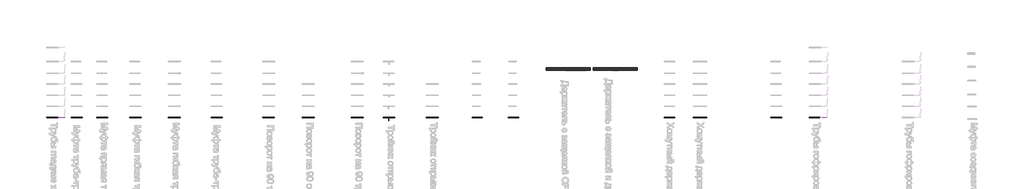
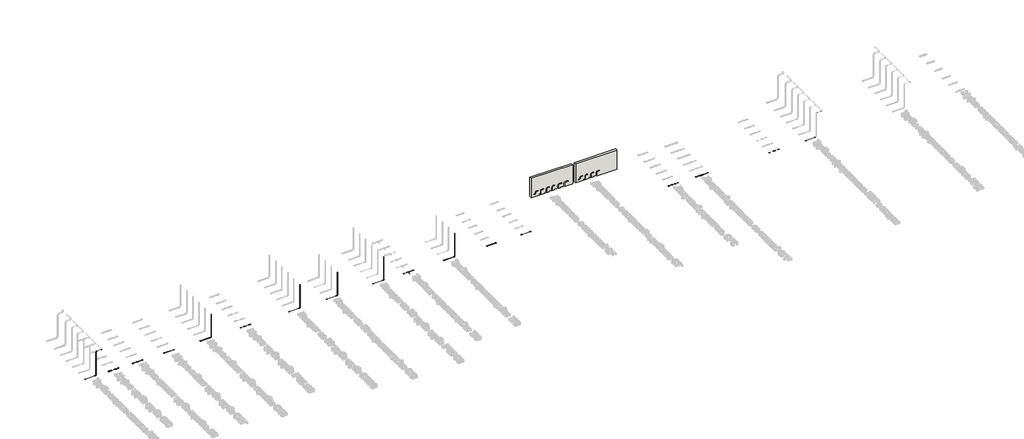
# One storey, part 1 of 33: 37 cable carrier segments, 22 cable carrier fittings, 2 walls.
"""IFC4 building model written with IfcOpenShell, lengths in millimetres."""

from ifc_helpers import new_model, si_unit, point, frame, frame_2d, origin, origin_with_axes, place, context, project, spatial, polyline, circle_curve, trimmed, segment, composite_curve, outline, extrude, transform, mapped, element, save
from components import cable_carrier_fitting_a50456ce, cable_carrier_fitting_7ef405d8, cable_carrier_fitting_6bc16285, cable_carrier_fitting_4a6c0bc6, cable_carrier_fitting_c9a27e83, cable_carrier_fitting_b1a6df09, cable_carrier_fitting_59e1ce25, cable_carrier_fitting_0a225d73, cable_carrier_fitting_85420fde, cable_carrier_fitting_3c8e73ad, cable_carrier_fitting_d08d1a64, cable_carrier_fitting_24b0fe75

model = new_model("IFC4")

# Units and contexts
model_context = context("Model", 3, world=origin())
ifc_project = project(units=[si_unit("LENGTHUNIT", "METRE", prefix="MILLI")], contexts=[model_context])

# Site, building, storey
site = spatial("IfcSite", under=ifc_project)
building = spatial("IfcBuilding", under=site)
storey = spatial("IfcBuildingStorey", under=building, Name="Уровень 1", Elevation=0.0)

# Cable carrier fittings
placement = place(None, origin())
cable_carrier_fitting_shape = cable_carrier_fitting_a50456ce(model_context)
element("IfcCableCarrierFitting", 1, ObjectType="Отвод Трубы гладкие жесткие ПВХ : Отвод Трубы гладкие жесткие ПВХ", at=placement, inside=storey, context=model_context, shape_type="MappedRepresentation", body=[
    mapped(cable_carrier_fitting_shape, transform((3794.4472755, -32.3744007, 45.929251), x_axis=(1.0, 0.0, 0.0), y_axis=(0.0, 0.0, 1.0), z_axis=(0.0, -1.0, 0.0))),
])
element("IfcCableCarrierFitting", 2, ObjectType="Отвод Трубы гладкие жесткие ПВХ : Отвод Трубы гладкие жесткие ПВХ", at=placement, inside=storey, context=model_context, shape_type="MappedRepresentation", body=[
    mapped(cable_carrier_fitting_shape, transform((3794.4472755, -32.3744007, 2545.929251), x_axis=(0.0, 0.0, 1.0), y_axis=(1.0, 0.0, 0.0), z_axis=(0.0, 1.0, 0.0))),
])
element("IfcCableCarrierFitting", 3, ObjectType="Отвод Трубы гладкие жесткие ПВХ : Отвод Трубы гладкие жесткие ПВХ", at=placement, inside=storey, context=model_context, shape_type="MappedRepresentation", body=[
    mapped(cable_carrier_fitting_shape, transform((4394.4472755, -32.3744007, 2545.929251), x_axis=(1.0, 0.0, 0.0), y_axis=(0.0, 1.0, 0.0), z_axis=(0.0, 0.0, 1.0))),
])
cable_carrier_fitting_2_shape = cable_carrier_fitting_7ef405d8(model_context)
element("IfcCableCarrierFitting", 4, ObjectType="Муфта труба-труба GIG IEK : CTA10D-GIG16-K41-100", at=placement, inside=storey, context=model_context, shape_type="MappedRepresentation", body=[
    mapped(cable_carrier_fitting_2_shape, transform((5239.8785953, -32.3744007, 45.929251), x_axis=(1.0, 0.0, 0.0), y_axis=(0.0, 1.0, 0.0), z_axis=(0.0, 0.0, 1.0))),
])
element("IfcCableCarrierFitting", 5, ObjectType="Муфта труба-труба GIG IEK : CTA10D-GIG16-K41-100", at=placement, inside=storey, context=model_context, shape_type="MappedRepresentation", body=[
    mapped(cable_carrier_fitting_2_shape, transform((5714.9307909, -32.3744007, 45.929251), x_axis=(1.0, 0.0, 0.0), y_axis=(0.0, 1.0, 0.0), z_axis=(0.0, 0.0, 1.0))),
])
cable_carrier_fitting_3_shape = cable_carrier_fitting_6bc16285(model_context)
element("IfcCableCarrierFitting", 6, ObjectType="Муфта гибкая труба-коробка CXS : Муфта гибкая труба-коробка CXS", at=placement, inside=storey, context=model_context, shape_type="MappedRepresentation", body=[
    mapped(cable_carrier_fitting_3_shape, transform((15194.4472755, -32.3744007, 45.929251), x_axis=(1.0, 0.0, 0.0), y_axis=(0.0, 0.0, 1.0), z_axis=(0.0, -1.0, 0.0))),
])
element("IfcCableCarrierFitting", 7, ObjectType="Муфта труба-труба IP65 MS : CTA10D-MS16-K41-050", at=placement, inside=storey, context=model_context, shape_type="MappedRepresentation", body=[
    mapped(cable_carrier_fitting_2_shape, transform((18990.9989351, -32.3744007, 45.929251), x_axis=(1.0, 0.0, 0.0), y_axis=(0.0, 1.0, 0.0), z_axis=(0.0, 0.0, 1.0))),
])
element("IfcCableCarrierFitting", 8, ObjectType="Муфта труба-труба IP65 MS : CTA10D-MS16-K41-050", at=placement, inside=storey, context=model_context, shape_type="MappedRepresentation", body=[
    mapped(cable_carrier_fitting_2_shape, transform((18508.12, -32.3744007, 45.929251), x_axis=(1.0, 0.0, 0.0), y_axis=(0.0, 1.0, 0.0), z_axis=(0.0, 0.0, 1.0))),
])
cable_carrier_fitting_4_shape = cable_carrier_fitting_4a6c0bc6(model_context)
element("IfcCableCarrierFitting", 9, ObjectType="Поворот на 90 труба-труба CRSG : Поворот на 90 труба-труба CRSG", at=placement, inside=storey, context=model_context, shape_type="MappedRepresentation", body=[
    mapped(cable_carrier_fitting_4_shape, transform((23994.4472755, -32.3744007, 45.929251), x_axis=(1.0, 0.0, 0.0), y_axis=(0.0, 0.0, 1.0), z_axis=(0.0, -1.0, 0.0))),
])
cable_carrier_fitting_5_shape = cable_carrier_fitting_c9a27e83(model_context)
element("IfcCableCarrierFitting", 10, ObjectType="Поворот на 90 открывающийся CIG : Поворот на 90 открывающийся CIG", at=placement, inside=storey, context=model_context, shape_type="MappedRepresentation", body=[
    mapped(cable_carrier_fitting_5_shape, transform((27694.4472755, -32.3744007, 45.929251), x_axis=(1.0, 0.0, 0.0), y_axis=(0.0, 0.0, 1.0), z_axis=(0.0, -1.0, 0.0))),
])
element("IfcCableCarrierFitting", 11, ObjectType="Поворот на 90 открывающийся CIG : Поворот на 90 открывающийся CIG", at=placement, inside=storey, context=model_context, shape_type="MappedRepresentation", body=[
    mapped(cable_carrier_fitting_5_shape, transform((39294.4472755, -32.3744007, 45.929251), x_axis=(1.0, 0.0, 0.0), y_axis=(0.0, 0.0, 1.0), z_axis=(0.0, -1.0, 0.0))),
])
cable_carrier_fitting_6_shape = cable_carrier_fitting_b1a6df09(model_context)
element("IfcCableCarrierFitting", 12, ObjectType="Поворот на 90 труба-труба IP65 CS : Поворот на 90 труба-труба IP65 CS", at=placement, inside=storey, context=model_context, shape_type="MappedRepresentation", body=[
    mapped(cable_carrier_fitting_6_shape, transform((32294.4472755, -32.3744007, 45.929251), x_axis=(1.0, 0.0, 0.0), y_axis=(0.0, 0.0, 1.0), z_axis=(0.0, -1.0, 0.0))),
])
element("IfcCableCarrierFitting", 13, ObjectType="Муфта прямая труба-труба армированная IP65 GA : CTA10D-GA16-K41-050", at=placement, inside=storey, context=model_context, shape_type="MappedRepresentation", body=[
    mapped(cable_carrier_fitting_2_shape, transform((43390.9989351, -32.3744007, 45.929251), x_axis=(-1.0, 0.0, 0.0), y_axis=(0.0, -1.0, 0.0), z_axis=(0.0, 0.0, 1.0))),
])
element("IfcCableCarrierFitting", 14, ObjectType="Муфта прямая труба-труба армированная IP65 GS : CTA10D-GS16-K41-050", at=placement, inside=storey, context=model_context, shape_type="MappedRepresentation", body=[
    mapped(cable_carrier_fitting_2_shape, transform((46790.9989351, -32.3744007, 45.929251), x_axis=(-1.0, 0.0, 0.0), y_axis=(0.0, -1.0, 0.0), z_axis=(0.0, 0.0, 1.0))),
])
cable_carrier_fitting_7_shape = cable_carrier_fitting_59e1ce25(model_context)
element("IfcCableCarrierFitting", 15, ObjectType="Муфта прямая труба-труба армированная IP65 GS : CTA10D-GS20-K41-050", at=placement, inside=storey, context=model_context, shape_type="MappedRepresentation", body=[
    mapped(cable_carrier_fitting_7_shape, transform((45889.4472755, -32.3744007, 45.929251), x_axis=(1.0, 0.0, 0.0), y_axis=(0.0, 1.0, 0.0), z_axis=(0.0, 0.0, 1.0))),
])
cable_carrier_fitting_8_shape = cable_carrier_fitting_0a225d73(model_context)
element("IfcCableCarrierFitting", 16, ObjectType="Муфта для гофрированных труб, прозрачная GFLEX D ИЭК : CTA10D-GFLEX16-K08-100", at=placement, inside=storey, context=model_context, shape_type="MappedRepresentation", body=[
    mapped(cable_carrier_fitting_8_shape, transform((70938.8739961, -32.3744007, 45.929251), x_axis=(1.0, 0.0, 0.0), y_axis=(0.0, 1.0, 0.0), z_axis=(0.0, 0.0, 1.0))),
])
cable_carrier_fitting_9_shape = cable_carrier_fitting_85420fde(model_context)
element("IfcCableCarrierFitting", 17, ObjectType="Хомутный держатель CFC : CTA10D-CFC16-K41-100", at=placement, inside=storey, context=model_context, shape_type="MappedRepresentation", body=[
    mapped(cable_carrier_fitting_9_shape, transform((60853.378185, -32.3744007, 45.929251), x_axis=(1.0, 0.0, 0.0), y_axis=(0.0, 1.0, 0.0), z_axis=(0.0, 0.0, 1.0))),
])
element("IfcCableCarrierFitting", 18, ObjectType="Хомутный держатель CFC : CTA10D-CFC16-K41-100", at=placement, inside=storey, context=model_context, shape_type="MappedRepresentation", body=[
    mapped(cable_carrier_fitting_9_shape, transform((61092.1498121, -32.3744007, 45.929251), x_axis=(1.0, 0.0, 0.0), y_axis=(0.0, 1.0, 0.0), z_axis=(0.0, 0.0, 1.0))),
])
cable_carrier_fitting_10_shape = cable_carrier_fitting_3c8e73ad(model_context)
element("IfcCableCarrierFitting", 19, ObjectType="Муфта прямая труба-коробка BS : CTA10D-BS16-K41-050", at=placement, inside=storey, context=model_context, shape_type="MappedRepresentation", body=[
    mapped(cable_carrier_fitting_10_shape, transform((7881.6531147, -32.3744007, 45.929251), x_axis=(0.9999999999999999, 0.0, 0.0), y_axis=(0.0, 0.9999999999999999, 0.0), z_axis=(0.0, 0.0, 0.9999999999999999))),
])
cable_carrier_fitting_11_shape = cable_carrier_fitting_d08d1a64(model_context)
element("IfcCableCarrierFitting", 20, ObjectType="Хомутный держатель со стяжкой CFF1 16-32 мм IEK : Хомутный держатель со стяжкой CFF1 16-32 мм IEK", at=placement, inside=storey, context=model_context, shape_type="MappedRepresentation", body=[
    mapped(cable_carrier_fitting_11_shape, transform((63739.6688602, -32.3744007, 45.929251), x_axis=(-1.0, 0.0, 0.0), y_axis=(0.0, -1.0, 0.0), z_axis=(0.0, 0.0, 1.0))),
])
element("IfcCableCarrierFitting", 21, ObjectType="Хомутный держатель со стяжкой CFF1 16-32 мм IEK : Хомутный держатель со стяжкой CFF1 16-32 мм IEK", at=placement, inside=storey, context=model_context, shape_type="MappedRepresentation", body=[
    mapped(cable_carrier_fitting_11_shape, transform((63529.8931967, -32.3744007, 45.929251), x_axis=(-1.0, 0.0, 0.0), y_axis=(0.0, -1.0, 0.0), z_axis=(0.0, 0.0, 1.0))),
])
cable_carrier_fitting_12_shape = cable_carrier_fitting_24b0fe75(model_context)
element("IfcCableCarrierFitting", 22, ObjectType="Тройник открывающийся TIG : Тройник открывающийся TIG", at=placement, inside=storey, context=model_context, shape_type="MappedRepresentation", body=[
    mapped(cable_carrier_fitting_12_shape, transform((34692.5139576, -32.3744007, 45.929251), x_axis=(-0.9999999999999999, 0.0, 0.0), y_axis=(0.0, -1.0, 0.0), z_axis=(0.0, 0.0, 1.0000000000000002))),
])

# Cable carrier segments
element("IfcCableCarrierSegment", 23, ObjectType="Трубы гладкие жесткие ПВХ", at=placement, inside=storey, context=model_context, shape_type="SweptSolid", body=[
    extrude(outline(composite_curve([segment(trimmed(circle_curve(frame_2d((-32.3744007, 45.929251)), 8.0), [point((-40.3744007, 45.929251))], [point((-32.3744007, 53.929251))], False, "CARTESIAN"), True, "CONTINUOUS"), segment(trimmed(circle_curve(frame_2d((-32.3744007, 45.929251)), 8.0), [point((-32.3744007, 53.929251))], [point((-24.3744007, 45.929251))], False, "CARTESIAN"), True, "CONTINUOUS"), segment(trimmed(circle_curve(frame_2d((-32.3744007, 45.929251)), 8.0), [point((-24.3744007, 45.929251))], [point((-32.3744007, 37.929251))], False, "CARTESIAN"), True, "CONTINUOUS"), segment(trimmed(circle_curve(frame_2d((-32.3744007, 45.929251)), 8.0), [point((-32.3744007, 37.929251))], [point((-40.3744007, 45.929251))], False, "CARTESIAN"), True, "CONTINUOUS")], self_intersect=False)), frame((2694.4472755, 0.0, 0.0), z_axis=(1.0, 0.0, 0.0), x_axis=(0.0, 1.0, 0.0)), (0.0, 0.0, 1.0), 1032.9186),
])
element("IfcCableCarrierSegment", 24, ObjectType="Трубы гладкие жесткие ПВХ", at=placement, inside=storey, context=model_context, shape_type="SweptSolid", body=[
    extrude(outline(composite_curve([segment(trimmed(circle_curve(frame_2d((-32.3744007, 2545.929251)), 8.0), [point((-40.3744007, 2545.929251))], [point((-32.3744007, 2553.929251))], False, "CARTESIAN"), True, "CONTINUOUS"), segment(trimmed(circle_curve(frame_2d((-32.3744007, 2545.929251)), 8.0), [point((-32.3744007, 2553.929251))], [point((-24.3744007, 2545.929251))], False, "CARTESIAN"), True, "CONTINUOUS"), segment(trimmed(circle_curve(frame_2d((-32.3744007, 2545.929251)), 8.0), [point((-24.3744007, 2545.929251))], [point((-32.3744007, 2537.929251))], False, "CARTESIAN"), True, "CONTINUOUS"), segment(trimmed(circle_curve(frame_2d((-32.3744007, 2545.929251)), 8.0), [point((-32.3744007, 2537.929251))], [point((-40.3744007, 2545.929251))], False, "CARTESIAN"), True, "CONTINUOUS")], self_intersect=False)), frame((3861.5286755, 0.0, 0.0), z_axis=(1.0, 0.0, 0.0), x_axis=(0.0, 1.0, 0.0)), (0.0, 0.0, 1.0), 465.8372),
])
element("IfcCableCarrierSegment", 25, ObjectType="Трубы гладкие жесткие ПВХ", at=placement, inside=storey, context=model_context, shape_type="SweptSolid", body=[
    extrude(outline(composite_curve([segment(trimmed(circle_curve(frame_2d((3794.4472755, -32.3744007)), 8.0), [point((3786.4472755, -32.3744007))], [point((3794.4472755, -24.3744007))], False, "CARTESIAN"), True, "CONTINUOUS"), segment(trimmed(circle_curve(frame_2d((3794.4472755, -32.3744007)), 8.0), [point((3794.4472755, -24.3744007))], [point((3802.4472755, -32.3744007))], False, "CARTESIAN"), True, "CONTINUOUS"), segment(trimmed(circle_curve(frame_2d((3794.4472755, -32.3744007)), 8.0), [point((3802.4472755, -32.3744007))], [point((3794.4472755, -40.3744007))], False, "CARTESIAN"), True, "CONTINUOUS"), segment(trimmed(circle_curve(frame_2d((3794.4472755, -32.3744007)), 8.0), [point((3794.4472755, -40.3744007))], [point((3786.4472755, -32.3744007))], False, "CARTESIAN"), True, "CONTINUOUS")], self_intersect=False)), frame((0.0, 0.0, 113.010651), z_axis=(0.0, 0.0, 1.0), x_axis=(1.0, 0.0, 0.0)), (0.0, 0.0, 1.0), 2365.8372),
])
element("IfcCableCarrierSegment", 26, ObjectType="Трубы гладкие жесткие ПВХ", at=placement, inside=storey, context=model_context, shape_type="SweptSolid", body=[
    extrude(outline(composite_curve([segment(trimmed(circle_curve(frame_2d((-32.3744007, 45.929251)), 8.0), [point((-40.3744007, 45.929251))], [point((-32.3744007, 53.929251))], False, "CARTESIAN"), True, "CONTINUOUS"), segment(trimmed(circle_curve(frame_2d((-32.3744007, 45.929251)), 8.0), [point((-32.3744007, 53.929251))], [point((-24.3744007, 45.929251))], False, "CARTESIAN"), True, "CONTINUOUS"), segment(trimmed(circle_curve(frame_2d((-32.3744007, 45.929251)), 8.0), [point((-24.3744007, 45.929251))], [point((-32.3744007, 37.929251))], False, "CARTESIAN"), True, "CONTINUOUS"), segment(trimmed(circle_curve(frame_2d((-32.3744007, 45.929251)), 8.0), [point((-32.3744007, 37.929251))], [point((-40.3744007, 45.929251))], False, "CARTESIAN"), True, "CONTINUOUS")], self_intersect=False)), frame((5719.9307909, 0.0, 0.0), z_axis=(1.0, 0.0, 0.0), x_axis=(0.0, 1.0, 0.0)), (0.0, 0.0, 1.0), 307.4350846),
])
element("IfcCableCarrierSegment", 27, ObjectType="Трубы гладкие жесткие ПВХ", at=placement, inside=storey, context=model_context, shape_type="SweptSolid", body=[
    extrude(outline(composite_curve([segment(trimmed(circle_curve(frame_2d((-32.3744007, 45.929251)), 8.0), [point((-40.3744007, 45.929251))], [point((-32.3744007, 53.929251))], False, "CARTESIAN"), True, "CONTINUOUS"), segment(trimmed(circle_curve(frame_2d((-32.3744007, 45.929251)), 8.0), [point((-32.3744007, 53.929251))], [point((-24.3744007, 45.929251))], False, "CARTESIAN"), True, "CONTINUOUS"), segment(trimmed(circle_curve(frame_2d((-32.3744007, 45.929251)), 8.0), [point((-24.3744007, 45.929251))], [point((-32.3744007, 37.929251))], False, "CARTESIAN"), True, "CONTINUOUS"), segment(trimmed(circle_curve(frame_2d((-32.3744007, 45.929251)), 8.0), [point((-32.3744007, 37.929251))], [point((-40.3744007, 45.929251))], False, "CARTESIAN"), True, "CONTINUOUS")], self_intersect=False)), frame((4994.4472755, 0.0, 0.0), z_axis=(1.0, 0.0, 0.0), x_axis=(0.0, 1.0, 0.0)), (0.0, 0.0, 1.0), 240.4313198),
])
element("IfcCableCarrierSegment", 28, ObjectType="Трубы гладкие жесткие ПВХ", at=placement, inside=storey, context=model_context, shape_type="SweptSolid", body=[
    extrude(outline(composite_curve([segment(trimmed(circle_curve(frame_2d((-32.3744007, 45.929251)), 8.0), [point((-40.3744007, 45.929251))], [point((-32.3744007, 53.929251))], False, "CARTESIAN"), True, "CONTINUOUS"), segment(trimmed(circle_curve(frame_2d((-32.3744007, 45.929251)), 8.0), [point((-32.3744007, 53.929251))], [point((-24.3744007, 45.929251))], False, "CARTESIAN"), True, "CONTINUOUS"), segment(trimmed(circle_curve(frame_2d((-32.3744007, 45.929251)), 8.0), [point((-24.3744007, 45.929251))], [point((-32.3744007, 37.929251))], False, "CARTESIAN"), True, "CONTINUOUS"), segment(trimmed(circle_curve(frame_2d((-32.3744007, 45.929251)), 8.0), [point((-32.3744007, 37.929251))], [point((-40.3744007, 45.929251))], False, "CARTESIAN"), True, "CONTINUOUS")], self_intersect=False)), frame((5244.8785953, 0.0, 0.0), z_axis=(1.0, 0.0, 0.0), x_axis=(0.0, 1.0, 0.0)), (0.0, 0.0, 1.0), 465.0521956),
])
element("IfcCableCarrierSegment", 29, ObjectType="Трубы гладкие жесткие ПВХ", at=placement, inside=storey, context=model_context, shape_type="SweptSolid", body=[
    extrude(outline(composite_curve([segment(trimmed(circle_curve(frame_2d((-32.3744007, 45.929251)), 8.0), [point((-40.3744007, 45.929251))], [point((-32.3744007, 53.929251))], False, "CARTESIAN"), True, "CONTINUOUS"), segment(trimmed(circle_curve(frame_2d((-32.3744007, 45.929251)), 8.0), [point((-32.3744007, 53.929251))], [point((-24.3744007, 45.929251))], False, "CARTESIAN"), True, "CONTINUOUS"), segment(trimmed(circle_curve(frame_2d((-32.3744007, 45.929251)), 8.0), [point((-24.3744007, 45.929251))], [point((-32.3744007, 37.929251))], False, "CARTESIAN"), True, "CONTINUOUS"), segment(trimmed(circle_curve(frame_2d((-32.3744007, 45.929251)), 8.0), [point((-32.3744007, 37.929251))], [point((-40.3744007, 45.929251))], False, "CARTESIAN"), True, "CONTINUOUS")], self_intersect=False)), frame((7886.6531147, 0.0, 0.0), z_axis=(1.0, 0.0, 0.0), x_axis=(0.0, 1.0, 0.0)), (0.0, 0.0, 1.0), 540.7127608),
])
element("IfcCableCarrierSegment", 30, ObjectType="Трубы гладкие жесткие ПВХ", at=placement, inside=storey, context=model_context, shape_type="SweptSolid", body=[
    extrude(outline(composite_curve([segment(trimmed(circle_curve(frame_2d((-32.3744007, 45.929251)), 8.0), [point((-40.3744007, 45.929251))], [point((-32.3744007, 53.929251))], False, "CARTESIAN"), True, "CONTINUOUS"), segment(trimmed(circle_curve(frame_2d((-32.3744007, 45.929251)), 8.0), [point((-32.3744007, 53.929251))], [point((-24.3744007, 45.929251))], False, "CARTESIAN"), True, "CONTINUOUS"), segment(trimmed(circle_curve(frame_2d((-32.3744007, 45.929251)), 8.0), [point((-24.3744007, 45.929251))], [point((-32.3744007, 37.929251))], False, "CARTESIAN"), True, "CONTINUOUS"), segment(trimmed(circle_curve(frame_2d((-32.3744007, 45.929251)), 8.0), [point((-32.3744007, 37.929251))], [point((-40.3744007, 45.929251))], False, "CARTESIAN"), True, "CONTINUOUS")], self_intersect=False)), frame((14094.4472755, 0.0, 0.0), z_axis=(1.0, 0.0, 0.0), x_axis=(0.0, 1.0, 0.0)), (0.0, 0.0, 1.0), 1032.9186),
])
element("IfcCableCarrierSegment", 31, ObjectType="Трубы гладкие жесткие ПВХ", at=placement, inside=storey, context=model_context, shape_type="SweptSolid", body=[
    extrude(outline(composite_curve([segment(trimmed(circle_curve(frame_2d((15194.4472755, -32.3744007)), 8.0), [point((15186.4472755, -32.3744007))], [point((15194.4472755, -24.3744007))], False, "CARTESIAN"), True, "CONTINUOUS"), segment(trimmed(circle_curve(frame_2d((15194.4472755, -32.3744007)), 8.0), [point((15194.4472755, -24.3744007))], [point((15202.4472755, -32.3744007))], False, "CARTESIAN"), True, "CONTINUOUS"), segment(trimmed(circle_curve(frame_2d((15194.4472755, -32.3744007)), 8.0), [point((15202.4472755, -32.3744007))], [point((15194.4472755, -40.3744007))], False, "CARTESIAN"), True, "CONTINUOUS"), segment(trimmed(circle_curve(frame_2d((15194.4472755, -32.3744007)), 8.0), [point((15194.4472755, -40.3744007))], [point((15186.4472755, -32.3744007))], False, "CARTESIAN"), True, "CONTINUOUS")], self_intersect=False)), frame((0.0, 0.0, 113.010651), z_axis=(0.0, 0.0, 1.0), x_axis=(1.0, 0.0, 0.0)), (0.0, 0.0, 1.0), 2365.8372),
])
element("IfcCableCarrierSegment", 32, ObjectType="Трубы гладкие жесткие ПВХ", at=placement, inside=storey, context=model_context, shape_type="SweptSolid", body=[
    extrude(outline(composite_curve([segment(trimmed(circle_curve(frame_2d((-32.3744007, 45.929251)), 8.0), [point((-40.3744007, 45.929251))], [point((-32.3744007, 53.929251))], False, "CARTESIAN"), True, "CONTINUOUS"), segment(trimmed(circle_curve(frame_2d((-32.3744007, 45.929251)), 8.0), [point((-32.3744007, 53.929251))], [point((-24.3744007, 45.929251))], False, "CARTESIAN"), True, "CONTINUOUS"), segment(trimmed(circle_curve(frame_2d((-32.3744007, 45.929251)), 8.0), [point((-24.3744007, 45.929251))], [point((-32.3744007, 37.929251))], False, "CARTESIAN"), True, "CONTINUOUS"), segment(trimmed(circle_curve(frame_2d((-32.3744007, 45.929251)), 8.0), [point((-32.3744007, 37.929251))], [point((-40.3744007, 45.929251))], False, "CARTESIAN"), True, "CONTINUOUS")], self_intersect=False)), frame((18995.9989351, 0.0, 0.0), z_axis=(1.0, 0.0, 0.0), x_axis=(0.0, 1.0, 0.0)), (0.0, 0.0, 1.0), 131.3669404),
])
element("IfcCableCarrierSegment", 33, ObjectType="Трубы гладкие жесткие ПВХ", at=placement, inside=storey, context=model_context, shape_type="SweptSolid", body=[
    extrude(outline(composite_curve([segment(trimmed(circle_curve(frame_2d((-32.3744007, 45.929251)), 8.0), [point((-40.3744007, 45.929251))], [point((-32.3744007, 53.929251))], False, "CARTESIAN"), True, "CONTINUOUS"), segment(trimmed(circle_curve(frame_2d((-32.3744007, 45.929251)), 8.0), [point((-32.3744007, 53.929251))], [point((-24.3744007, 45.929251))], False, "CARTESIAN"), True, "CONTINUOUS"), segment(trimmed(circle_curve(frame_2d((-32.3744007, 45.929251)), 8.0), [point((-24.3744007, 45.929251))], [point((-32.3744007, 37.929251))], False, "CARTESIAN"), True, "CONTINUOUS"), segment(trimmed(circle_curve(frame_2d((-32.3744007, 45.929251)), 8.0), [point((-32.3744007, 37.929251))], [point((-40.3744007, 45.929251))], False, "CARTESIAN"), True, "CONTINUOUS")], self_intersect=False)), frame((18513.12, 0.0, 0.0), z_axis=(1.0, 0.0, 0.0), x_axis=(0.0, 1.0, 0.0)), (0.0, 0.0, 1.0), 472.878935),
])
element("IfcCableCarrierSegment", 34, ObjectType="Трубы гладкие жесткие ПВХ", at=placement, inside=storey, context=model_context, shape_type="SweptSolid", body=[
    extrude(outline(composite_curve([segment(trimmed(circle_curve(frame_2d((-32.3744007, 45.929251)), 8.0), [point((-40.3744007, 45.929251))], [point((-32.3744007, 53.929251))], False, "CARTESIAN"), True, "CONTINUOUS"), segment(trimmed(circle_curve(frame_2d((-32.3744007, 45.929251)), 8.0), [point((-32.3744007, 53.929251))], [point((-24.3744007, 45.929251))], False, "CARTESIAN"), True, "CONTINUOUS"), segment(trimmed(circle_curve(frame_2d((-32.3744007, 45.929251)), 8.0), [point((-24.3744007, 45.929251))], [point((-32.3744007, 37.929251))], False, "CARTESIAN"), True, "CONTINUOUS"), segment(trimmed(circle_curve(frame_2d((-32.3744007, 45.929251)), 8.0), [point((-32.3744007, 37.929251))], [point((-40.3744007, 45.929251))], False, "CARTESIAN"), True, "CONTINUOUS")], self_intersect=False)), frame((18094.4472755, 0.0, 0.0), z_axis=(1.0, 0.0, 0.0), x_axis=(0.0, 1.0, 0.0)), (0.0, 0.0, 1.0), 408.6727246),
])
element("IfcCableCarrierSegment", 35, ObjectType="Трубы гладкие жесткие ПВХ", at=placement, inside=storey, context=model_context, shape_type="SweptSolid", body=[
    extrude(outline(composite_curve([segment(trimmed(circle_curve(frame_2d((-32.3744007, 45.929251)), 8.0), [point((-40.3744007, 45.929251))], [point((-32.3744007, 53.929251))], False, "CARTESIAN"), True, "CONTINUOUS"), segment(trimmed(circle_curve(frame_2d((-32.3744007, 45.929251)), 8.0), [point((-32.3744007, 53.929251))], [point((-24.3744007, 45.929251))], False, "CARTESIAN"), True, "CONTINUOUS"), segment(trimmed(circle_curve(frame_2d((-32.3744007, 45.929251)), 8.0), [point((-24.3744007, 45.929251))], [point((-32.3744007, 37.929251))], False, "CARTESIAN"), True, "CONTINUOUS"), segment(trimmed(circle_curve(frame_2d((-32.3744007, 45.929251)), 8.0), [point((-32.3744007, 37.929251))], [point((-40.3744007, 45.929251))], False, "CARTESIAN"), True, "CONTINUOUS")], self_intersect=False)), frame((22894.4472755, 0.0, 0.0), z_axis=(1.0, 0.0, 0.0), x_axis=(0.0, 1.0, 0.0)), (0.0, 0.0, 1.0), 1032.9186),
])
element("IfcCableCarrierSegment", 36, ObjectType="Трубы гладкие жесткие ПВХ", at=placement, inside=storey, context=model_context, shape_type="SweptSolid", body=[
    extrude(outline(composite_curve([segment(trimmed(circle_curve(frame_2d((23994.4472755, -32.3744007)), 8.0), [point((23986.4472755, -32.3744007))], [point((23994.4472755, -24.3744007))], False, "CARTESIAN"), True, "CONTINUOUS"), segment(trimmed(circle_curve(frame_2d((23994.4472755, -32.3744007)), 8.0), [point((23994.4472755, -24.3744007))], [point((24002.4472755, -32.3744007))], False, "CARTESIAN"), True, "CONTINUOUS"), segment(trimmed(circle_curve(frame_2d((23994.4472755, -32.3744007)), 8.0), [point((24002.4472755, -32.3744007))], [point((23994.4472755, -40.3744007))], False, "CARTESIAN"), True, "CONTINUOUS"), segment(trimmed(circle_curve(frame_2d((23994.4472755, -32.3744007)), 8.0), [point((23994.4472755, -40.3744007))], [point((23986.4472755, -32.3744007))], False, "CARTESIAN"), True, "CONTINUOUS")], self_intersect=False)), frame((0.0, 0.0, 113.010651), z_axis=(0.0, 0.0, 1.0), x_axis=(1.0, 0.0, 0.0)), (0.0, 0.0, 1.0), 2365.8372),
])
element("IfcCableCarrierSegment", 37, ObjectType="Трубы гладкие жесткие ПВХ", at=placement, inside=storey, context=model_context, shape_type="SweptSolid", body=[
    extrude(outline(composite_curve([segment(trimmed(circle_curve(frame_2d((-32.3744007, 45.929251)), 8.0), [point((-40.3744007, 45.929251))], [point((-32.3744007, 53.929251))], False, "CARTESIAN"), True, "CONTINUOUS"), segment(trimmed(circle_curve(frame_2d((-32.3744007, 45.929251)), 8.0), [point((-32.3744007, 53.929251))], [point((-24.3744007, 45.929251))], False, "CARTESIAN"), True, "CONTINUOUS"), segment(trimmed(circle_curve(frame_2d((-32.3744007, 45.929251)), 8.0), [point((-24.3744007, 45.929251))], [point((-32.3744007, 37.929251))], False, "CARTESIAN"), True, "CONTINUOUS"), segment(trimmed(circle_curve(frame_2d((-32.3744007, 45.929251)), 8.0), [point((-32.3744007, 37.929251))], [point((-40.3744007, 45.929251))], False, "CARTESIAN"), True, "CONTINUOUS")], self_intersect=False)), frame((26594.4472755, 0.0, 0.0), z_axis=(1.0, 0.0, 0.0), x_axis=(0.0, 1.0, 0.0)), (0.0, 0.0, 1.0), 1050.0),
])
element("IfcCableCarrierSegment", 38, ObjectType="Трубы гладкие жесткие ПВХ", at=placement, inside=storey, context=model_context, shape_type="SweptSolid", body=[
    extrude(outline(composite_curve([segment(trimmed(circle_curve(frame_2d((27694.4472755, -32.3744007)), 8.0), [point((27686.4472755, -32.3744007))], [point((27694.4472755, -24.3744007))], False, "CARTESIAN"), True, "CONTINUOUS"), segment(trimmed(circle_curve(frame_2d((27694.4472755, -32.3744007)), 8.0), [point((27694.4472755, -24.3744007))], [point((27702.4472755, -32.3744007))], False, "CARTESIAN"), True, "CONTINUOUS"), segment(trimmed(circle_curve(frame_2d((27694.4472755, -32.3744007)), 8.0), [point((27702.4472755, -32.3744007))], [point((27694.4472755, -40.3744007))], False, "CARTESIAN"), True, "CONTINUOUS"), segment(trimmed(circle_curve(frame_2d((27694.4472755, -32.3744007)), 8.0), [point((27694.4472755, -40.3744007))], [point((27686.4472755, -32.3744007))], False, "CARTESIAN"), True, "CONTINUOUS")], self_intersect=False)), frame((0.0, 0.0, 95.929251), z_axis=(0.0, 0.0, 1.0), x_axis=(1.0, 0.0, 0.0)), (0.0, 0.0, 1.0), 2382.9186),
])
element("IfcCableCarrierSegment", 39, ObjectType="Трубы гладкие жесткие ПВХ", at=placement, inside=storey, context=model_context, shape_type="SweptSolid", body=[
    extrude(outline(composite_curve([segment(trimmed(circle_curve(frame_2d((-32.3744007, 45.929251)), 8.0), [point((-40.3744007, 45.929251))], [point((-32.3744007, 53.929251))], False, "CARTESIAN"), True, "CONTINUOUS"), segment(trimmed(circle_curve(frame_2d((-32.3744007, 45.929251)), 8.0), [point((-32.3744007, 53.929251))], [point((-24.3744007, 45.929251))], False, "CARTESIAN"), True, "CONTINUOUS"), segment(trimmed(circle_curve(frame_2d((-32.3744007, 45.929251)), 8.0), [point((-24.3744007, 45.929251))], [point((-32.3744007, 37.929251))], False, "CARTESIAN"), True, "CONTINUOUS"), segment(trimmed(circle_curve(frame_2d((-32.3744007, 45.929251)), 8.0), [point((-32.3744007, 37.929251))], [point((-40.3744007, 45.929251))], False, "CARTESIAN"), True, "CONTINUOUS")], self_intersect=False)), frame((31194.4472755, 0.0, 0.0), z_axis=(1.0, 0.0, 0.0), x_axis=(0.0, 1.0, 0.0)), (0.0, 0.0, 1.0), 1050.0),
])
element("IfcCableCarrierSegment", 40, ObjectType="Трубы гладкие жесткие ПВХ", at=placement, inside=storey, context=model_context, shape_type="SweptSolid", body=[
    extrude(outline(composite_curve([segment(trimmed(circle_curve(frame_2d((32294.4472755, -32.3744007)), 8.0), [point((32286.4472755, -32.3744007))], [point((32294.4472755, -24.3744007))], False, "CARTESIAN"), True, "CONTINUOUS"), segment(trimmed(circle_curve(frame_2d((32294.4472755, -32.3744007)), 8.0), [point((32294.4472755, -24.3744007))], [point((32302.4472755, -32.3744007))], False, "CARTESIAN"), True, "CONTINUOUS"), segment(trimmed(circle_curve(frame_2d((32294.4472755, -32.3744007)), 8.0), [point((32302.4472755, -32.3744007))], [point((32294.4472755, -40.3744007))], False, "CARTESIAN"), True, "CONTINUOUS"), segment(trimmed(circle_curve(frame_2d((32294.4472755, -32.3744007)), 8.0), [point((32294.4472755, -40.3744007))], [point((32286.4472755, -32.3744007))], False, "CARTESIAN"), True, "CONTINUOUS")], self_intersect=False)), frame((0.0, 0.0, 95.929251), z_axis=(0.0, 0.0, 1.0), x_axis=(1.0, 0.0, 0.0)), (0.0, 0.0, 1.0), 2382.9186),
])
element("IfcCableCarrierSegment", 41, ObjectType="Трубы гладкие жесткие ПВХ", at=placement, inside=storey, context=model_context, shape_type="SweptSolid", body=[
    extrude(outline(composite_curve([segment(trimmed(circle_curve(frame_2d((-32.3744007, 45.929251)), 8.0), [point((-40.3744007, 45.929251))], [point((-32.3744007, 53.929251))], False, "CARTESIAN"), True, "CONTINUOUS"), segment(trimmed(circle_curve(frame_2d((-32.3744007, 45.929251)), 8.0), [point((-32.3744007, 53.929251))], [point((-24.3744007, 45.929251))], False, "CARTESIAN"), True, "CONTINUOUS"), segment(trimmed(circle_curve(frame_2d((-32.3744007, 45.929251)), 8.0), [point((-24.3744007, 45.929251))], [point((-32.3744007, 37.929251))], False, "CARTESIAN"), True, "CONTINUOUS"), segment(trimmed(circle_curve(frame_2d((-32.3744007, 45.929251)), 8.0), [point((-32.3744007, 37.929251))], [point((-40.3744007, 45.929251))], False, "CARTESIAN"), True, "CONTINUOUS")], self_intersect=False)), frame((38194.4472755, 0.0, 0.0), z_axis=(1.0, 0.0, 0.0), x_axis=(0.0, 1.0, 0.0)), (0.0, 0.0, 1.0), 1050.0),
])
element("IfcCableCarrierSegment", 42, ObjectType="Трубы гладкие жесткие ПВХ", at=placement, inside=storey, context=model_context, shape_type="SweptSolid", body=[
    extrude(outline(composite_curve([segment(trimmed(circle_curve(frame_2d((39294.4472755, -32.3744007)), 8.0), [point((39286.4472755, -32.3744007))], [point((39294.4472755, -24.3744007))], False, "CARTESIAN"), True, "CONTINUOUS"), segment(trimmed(circle_curve(frame_2d((39294.4472755, -32.3744007)), 8.0), [point((39294.4472755, -24.3744007))], [point((39302.4472755, -32.3744007))], False, "CARTESIAN"), True, "CONTINUOUS"), segment(trimmed(circle_curve(frame_2d((39294.4472755, -32.3744007)), 8.0), [point((39302.4472755, -32.3744007))], [point((39294.4472755, -40.3744007))], False, "CARTESIAN"), True, "CONTINUOUS"), segment(trimmed(circle_curve(frame_2d((39294.4472755, -32.3744007)), 8.0), [point((39294.4472755, -40.3744007))], [point((39286.4472755, -32.3744007))], False, "CARTESIAN"), True, "CONTINUOUS")], self_intersect=False)), frame((0.0, 0.0, 95.929251), z_axis=(0.0, 0.0, 1.0), x_axis=(1.0, 0.0, 0.0)), (0.0, 0.0, 1.0), 2382.9186),
])
element("IfcCableCarrierSegment", 43, ObjectType="Трубы гладкие жесткие ПВХ", at=placement, inside=storey, context=model_context, shape_type="SweptSolid", body=[
    extrude(outline(composite_curve([segment(trimmed(circle_curve(frame_2d((-32.3744007, 45.929251)), 8.0), [point((-40.3744007, 45.929251))], [point((-32.3744007, 53.929251))], False, "CARTESIAN"), True, "CONTINUOUS"), segment(trimmed(circle_curve(frame_2d((-32.3744007, 45.929251)), 8.0), [point((-32.3744007, 53.929251))], [point((-24.3744007, 45.929251))], False, "CARTESIAN"), True, "CONTINUOUS"), segment(trimmed(circle_curve(frame_2d((-32.3744007, 45.929251)), 8.0), [point((-24.3744007, 45.929251))], [point((-32.3744007, 37.929251))], False, "CARTESIAN"), True, "CONTINUOUS"), segment(trimmed(circle_curve(frame_2d((-32.3744007, 45.929251)), 8.0), [point((-32.3744007, 37.929251))], [point((-40.3744007, 45.929251))], False, "CARTESIAN"), True, "CONTINUOUS")], self_intersect=False)), frame((42494.4472755, 0.0, 0.0), z_axis=(1.0, 0.0, 0.0), x_axis=(0.0, 1.0, 0.0)), (0.0, 0.0, 1.0), 891.5516596),
])
element("IfcCableCarrierSegment", 44, ObjectType="Трубы гладкие жесткие ПВХ", at=placement, inside=storey, context=model_context, shape_type="SweptSolid", body=[
    extrude(outline(composite_curve([segment(trimmed(circle_curve(frame_2d((-32.3744007, 45.929251)), 8.0), [point((-40.3744007, 45.929251))], [point((-32.3744007, 53.929251))], False, "CARTESIAN"), True, "CONTINUOUS"), segment(trimmed(circle_curve(frame_2d((-32.3744007, 45.929251)), 8.0), [point((-32.3744007, 53.929251))], [point((-24.3744007, 45.929251))], False, "CARTESIAN"), True, "CONTINUOUS"), segment(trimmed(circle_curve(frame_2d((-32.3744007, 45.929251)), 8.0), [point((-24.3744007, 45.929251))], [point((-32.3744007, 37.929251))], False, "CARTESIAN"), True, "CONTINUOUS"), segment(trimmed(circle_curve(frame_2d((-32.3744007, 45.929251)), 8.0), [point((-32.3744007, 37.929251))], [point((-40.3744007, 45.929251))], False, "CARTESIAN"), True, "CONTINUOUS")], self_intersect=False)), frame((45894.4472755, 0.0, 0.0), z_axis=(1.0, 0.0, 0.0), x_axis=(0.0, 1.0, 0.0)), (0.0, 0.0, 1.0), 891.5516596),
])
element("IfcCableCarrierSegment", 45, ObjectType="Трубы гофрированные ПВХ с зондом", at=placement, inside=storey, context=model_context, shape_type="SweptSolid", body=[
    extrude(outline(composite_curve([segment(trimmed(circle_curve(frame_2d((-32.3744007, 45.929251)), 8.0), [point((-40.3744007, 45.929251))], [point((-32.3744007, 53.929251))], False, "CARTESIAN"), True, "CONTINUOUS"), segment(trimmed(circle_curve(frame_2d((-32.3744007, 45.929251)), 8.0), [point((-32.3744007, 53.929251))], [point((-24.3744007, 45.929251))], False, "CARTESIAN"), True, "CONTINUOUS"), segment(trimmed(circle_curve(frame_2d((-32.3744007, 45.929251)), 8.0), [point((-24.3744007, 45.929251))], [point((-32.3744007, 37.929251))], False, "CARTESIAN"), True, "CONTINUOUS"), segment(trimmed(circle_curve(frame_2d((-32.3744007, 45.929251)), 8.0), [point((-32.3744007, 37.929251))], [point((-40.3744007, 45.929251))], False, "CARTESIAN"), True, "CONTINUOUS")], self_intersect=False)), frame((73994.4472755, 0.0, 0.0), z_axis=(1.0, 0.0, 0.0), x_axis=(0.0, 1.0, 0.0)), (0.0, 0.0, 1.0), 1032.9186),
])
element("IfcCableCarrierSegment", 46, ObjectType="Трубы гофрированные ПВХ с зондом", at=placement, inside=storey, context=model_context, shape_type="SweptSolid", body=[
    extrude(outline(composite_curve([segment(trimmed(circle_curve(frame_2d((-32.3744007, 2545.929251)), 8.0), [point((-40.3744007, 2545.929251))], [point((-32.3744007, 2553.929251))], False, "CARTESIAN"), True, "CONTINUOUS"), segment(trimmed(circle_curve(frame_2d((-32.3744007, 2545.929251)), 8.0), [point((-32.3744007, 2553.929251))], [point((-24.3744007, 2545.929251))], False, "CARTESIAN"), True, "CONTINUOUS"), segment(trimmed(circle_curve(frame_2d((-32.3744007, 2545.929251)), 8.0), [point((-24.3744007, 2545.929251))], [point((-32.3744007, 2537.929251))], False, "CARTESIAN"), True, "CONTINUOUS"), segment(trimmed(circle_curve(frame_2d((-32.3744007, 2545.929251)), 8.0), [point((-32.3744007, 2537.929251))], [point((-40.3744007, 2545.929251))], False, "CARTESIAN"), True, "CONTINUOUS")], self_intersect=False)), frame((75161.5286755, 0.0, 0.0), z_axis=(1.0, 0.0, 0.0), x_axis=(0.0, 1.0, 0.0)), (0.0, 0.0, 1.0), 465.8372),
])
element("IfcCableCarrierSegment", 47, ObjectType="Трубы гофрированные ПВХ с зондом", at=placement, inside=storey, context=model_context, shape_type="SweptSolid", body=[
    extrude(outline(composite_curve([segment(trimmed(circle_curve(frame_2d((-32.3744007, 45.929251)), 8.0), [point((-40.3744007, 45.929251))], [point((-32.3744007, 53.929251))], False, "CARTESIAN"), True, "CONTINUOUS"), segment(trimmed(circle_curve(frame_2d((-32.3744007, 45.929251)), 8.0), [point((-32.3744007, 53.929251))], [point((-24.3744007, 45.929251))], False, "CARTESIAN"), True, "CONTINUOUS"), segment(trimmed(circle_curve(frame_2d((-32.3744007, 45.929251)), 8.0), [point((-24.3744007, 45.929251))], [point((-32.3744007, 37.929251))], False, "CARTESIAN"), True, "CONTINUOUS"), segment(trimmed(circle_curve(frame_2d((-32.3744007, 45.929251)), 8.0), [point((-32.3744007, 37.929251))], [point((-40.3744007, 45.929251))], False, "CARTESIAN"), True, "CONTINUOUS")], self_intersect=False)), frame((70943.8739961, 0.0, 0.0), z_axis=(1.0, 0.0, 0.0), x_axis=(0.0, 1.0, 0.0)), (0.0, 0.0, 1.0), 483.4918794),
])
element("IfcCableCarrierSegment", 48, ObjectType="Трубы гофрированные ПВХ с зондом", at=placement, inside=storey, context=model_context, shape_type="SweptSolid", body=[
    extrude(outline(composite_curve([segment(trimmed(circle_curve(frame_2d((-32.3744007, 45.929251)), 8.0), [point((-40.3744007, 45.929251))], [point((-32.3744007, 53.929251))], False, "CARTESIAN"), True, "CONTINUOUS"), segment(trimmed(circle_curve(frame_2d((-32.3744007, 45.929251)), 8.0), [point((-32.3744007, 53.929251))], [point((-24.3744007, 45.929251))], False, "CARTESIAN"), True, "CONTINUOUS"), segment(trimmed(circle_curve(frame_2d((-32.3744007, 45.929251)), 8.0), [point((-24.3744007, 45.929251))], [point((-32.3744007, 37.929251))], False, "CARTESIAN"), True, "CONTINUOUS"), segment(trimmed(circle_curve(frame_2d((-32.3744007, 45.929251)), 8.0), [point((-32.3744007, 37.929251))], [point((-40.3744007, 45.929251))], False, "CARTESIAN"), True, "CONTINUOUS")], self_intersect=False)), frame((70394.4472755, 0.0, 0.0), z_axis=(1.0, 0.0, 0.0), x_axis=(0.0, 1.0, 0.0)), (0.0, 0.0, 1.0), 539.4267206),
])
element("IfcCableCarrierSegment", 49, ObjectType="Трубы гладкие жесткие ПВХ", at=placement, inside=storey, context=model_context, shape_type="SweptSolid", body=[
    extrude(outline(composite_curve([segment(trimmed(circle_curve(frame_2d((-32.3744007, 45.929251)), 8.0), [point((-40.3744007, 45.929251))], [point((-32.3744007, 53.929251))], False, "CARTESIAN"), True, "CONTINUOUS"), segment(trimmed(circle_curve(frame_2d((-32.3744007, 45.929251)), 8.0), [point((-32.3744007, 53.929251))], [point((-24.3744007, 45.929251))], False, "CARTESIAN"), True, "CONTINUOUS"), segment(trimmed(circle_curve(frame_2d((-32.3744007, 45.929251)), 8.0), [point((-24.3744007, 45.929251))], [point((-32.3744007, 37.929251))], False, "CARTESIAN"), True, "CONTINUOUS"), segment(trimmed(circle_curve(frame_2d((-32.3744007, 45.929251)), 8.0), [point((-32.3744007, 37.929251))], [point((-40.3744007, 45.929251))], False, "CARTESIAN"), True, "CONTINUOUS")], self_intersect=False)), frame((61092.1498121, 0.0, 0.0), z_axis=(1.0, 0.0, 0.0), x_axis=(0.0, 1.0, 0.0)), (0.0, 0.0, 1.0), 351.9904042),
])
element("IfcCableCarrierSegment", 50, ObjectType="Трубы гладкие жесткие ПВХ", at=placement, inside=storey, context=model_context, shape_type="SweptSolid", body=[
    extrude(outline(composite_curve([segment(trimmed(circle_curve(frame_2d((-32.3744007, 45.929251)), 8.0), [point((-40.3744007, 45.929251))], [point((-32.3744007, 53.929251))], False, "CARTESIAN"), True, "CONTINUOUS"), segment(trimmed(circle_curve(frame_2d((-32.3744007, 45.929251)), 8.0), [point((-32.3744007, 53.929251))], [point((-24.3744007, 45.929251))], False, "CARTESIAN"), True, "CONTINUOUS"), segment(trimmed(circle_curve(frame_2d((-32.3744007, 45.929251)), 8.0), [point((-24.3744007, 45.929251))], [point((-32.3744007, 37.929251))], False, "CARTESIAN"), True, "CONTINUOUS"), segment(trimmed(circle_curve(frame_2d((-32.3744007, 45.929251)), 8.0), [point((-32.3744007, 37.929251))], [point((-40.3744007, 45.929251))], False, "CARTESIAN"), True, "CONTINUOUS")], self_intersect=False)), frame((60444.1402163, 0.0, 0.0), z_axis=(1.0, 0.0, 0.0), x_axis=(0.0, 1.0, 0.0)), (0.0, 0.0, 1.0), 409.2379686),
])
element("IfcCableCarrierSegment", 51, ObjectType="Трубы гладкие жесткие ПВХ", at=placement, inside=storey, context=model_context, shape_type="SweptSolid", body=[
    extrude(outline(composite_curve([segment(trimmed(circle_curve(frame_2d((-32.3744007, 45.929251)), 8.0), [point((-40.3744007, 45.929251))], [point((-32.3744007, 53.929251))], False, "CARTESIAN"), True, "CONTINUOUS"), segment(trimmed(circle_curve(frame_2d((-32.3744007, 45.929251)), 8.0), [point((-32.3744007, 53.929251))], [point((-24.3744007, 45.929251))], False, "CARTESIAN"), True, "CONTINUOUS"), segment(trimmed(circle_curve(frame_2d((-32.3744007, 45.929251)), 8.0), [point((-24.3744007, 45.929251))], [point((-32.3744007, 37.929251))], False, "CARTESIAN"), True, "CONTINUOUS"), segment(trimmed(circle_curve(frame_2d((-32.3744007, 45.929251)), 8.0), [point((-32.3744007, 37.929251))], [point((-40.3744007, 45.929251))], False, "CARTESIAN"), True, "CONTINUOUS")], self_intersect=False)), frame((60853.378185, 0.0, 0.0), z_axis=(1.0, 0.0, 0.0), x_axis=(0.0, 1.0, 0.0)), (0.0, 0.0, 1.0), 238.7716272),
])
element("IfcCableCarrierSegment", 52, ObjectType="Трубы гладкие жесткие ПВХ", at=placement, inside=storey, context=model_context, shape_type="SweptSolid", body=[
    extrude(outline(composite_curve([segment(trimmed(circle_curve(frame_2d((-32.3744007, 45.929251)), 8.0), [point((-40.3744007, 45.929251))], [point((-32.3744007, 53.929251))], False, "CARTESIAN"), True, "CONTINUOUS"), segment(trimmed(circle_curve(frame_2d((-32.3744007, 45.929251)), 8.0), [point((-32.3744007, 53.929251))], [point((-24.3744007, 45.929251))], False, "CARTESIAN"), True, "CONTINUOUS"), segment(trimmed(circle_curve(frame_2d((-32.3744007, 45.929251)), 8.0), [point((-24.3744007, 45.929251))], [point((-32.3744007, 37.929251))], False, "CARTESIAN"), True, "CONTINUOUS"), segment(trimmed(circle_curve(frame_2d((-32.3744007, 45.929251)), 8.0), [point((-32.3744007, 37.929251))], [point((-40.3744007, 45.929251))], False, "CARTESIAN"), True, "CONTINUOUS")], self_intersect=False)), frame((10494.4472755, 0.0, 0.0), z_axis=(1.0, 0.0, 0.0), x_axis=(0.0, 1.0, 0.0)), (0.0, 0.0, 1.0), 1032.9186),
])
element("IfcCableCarrierSegment", 53, ObjectType="Трубы гладкие жесткие ПВХ", at=placement, inside=storey, context=model_context, shape_type="SweptSolid", body=[
    extrude(outline(composite_curve([segment(trimmed(circle_curve(frame_2d((-32.3744007, 45.929251)), 8.0), [point((-40.3744007, 45.929251))], [point((-32.3744007, 53.929251))], False, "CARTESIAN"), True, "CONTINUOUS"), segment(trimmed(circle_curve(frame_2d((-32.3744007, 45.929251)), 8.0), [point((-32.3744007, 53.929251))], [point((-24.3744007, 45.929251))], False, "CARTESIAN"), True, "CONTINUOUS"), segment(trimmed(circle_curve(frame_2d((-32.3744007, 45.929251)), 8.0), [point((-24.3744007, 45.929251))], [point((-32.3744007, 37.929251))], False, "CARTESIAN"), True, "CONTINUOUS"), segment(trimmed(circle_curve(frame_2d((-32.3744007, 45.929251)), 8.0), [point((-32.3744007, 37.929251))], [point((-40.3744007, 45.929251))], False, "CARTESIAN"), True, "CONTINUOUS")], self_intersect=False)), frame((7394.4472755, 0.0, 0.0), z_axis=(1.0, 0.0, 0.0), x_axis=(0.0, 1.0, 0.0)), (0.0, 0.0, 1.0), 482.2058392),
])
element("IfcCableCarrierSegment", 54, ObjectType="Трубы гладкие жесткие ПВХ", at=placement, inside=storey, context=model_context, shape_type="SweptSolid", body=[
    extrude(outline(composite_curve([segment(trimmed(circle_curve(frame_2d((-32.3744007, 45.929251)), 8.0), [point((-24.3744007, 45.929251))], [point((-32.3744007, 37.929251))], False, "CARTESIAN"), True, "CONTINUOUS"), segment(trimmed(circle_curve(frame_2d((-32.3744007, 45.929251)), 8.0), [point((-32.3744007, 37.929251))], [point((-40.3744007, 45.929251))], False, "CARTESIAN"), True, "CONTINUOUS"), segment(trimmed(circle_curve(frame_2d((-32.3744007, 45.929251)), 8.0), [point((-40.3744007, 45.929251))], [point((-32.3744007, 53.929251))], False, "CARTESIAN"), True, "CONTINUOUS"), segment(trimmed(circle_curve(frame_2d((-32.3744007, 45.929251)), 8.0), [point((-32.3744007, 53.929251))], [point((-24.3744007, 45.929251))], False, "CARTESIAN"), True, "CONTINUOUS")], self_intersect=False)), frame((63144.1402163, 0.0, 0.0), z_axis=(1.0, 0.0, 0.0), x_axis=(0.0, 1.0, 0.0)), (0.0, 0.0, 1.0), 385.7529804),
])
element("IfcCableCarrierSegment", 55, ObjectType="Трубы гладкие жесткие ПВХ", at=placement, inside=storey, context=model_context, shape_type="SweptSolid", body=[
    extrude(outline(composite_curve([segment(trimmed(circle_curve(frame_2d((-32.3744007, 45.929251)), 8.0), [point((-24.3744007, 45.929251))], [point((-32.3744007, 37.929251))], False, "CARTESIAN"), True, "CONTINUOUS"), segment(trimmed(circle_curve(frame_2d((-32.3744007, 45.929251)), 8.0), [point((-32.3744007, 37.929251))], [point((-40.3744007, 45.929251))], False, "CARTESIAN"), True, "CONTINUOUS"), segment(trimmed(circle_curve(frame_2d((-32.3744007, 45.929251)), 8.0), [point((-40.3744007, 45.929251))], [point((-32.3744007, 53.929251))], False, "CARTESIAN"), True, "CONTINUOUS"), segment(trimmed(circle_curve(frame_2d((-32.3744007, 45.929251)), 8.0), [point((-32.3744007, 53.929251))], [point((-24.3744007, 45.929251))], False, "CARTESIAN"), True, "CONTINUOUS")], self_intersect=False)), frame((63739.6688602, 0.0, 0.0), z_axis=(1.0, 0.0, 0.0), x_axis=(0.0, 1.0, 0.0)), (0.0, 0.0, 1.0), 664.4713561),
])
element("IfcCableCarrierSegment", 56, ObjectType="Трубы гладкие жесткие ПВХ", at=placement, inside=storey, context=model_context, shape_type="SweptSolid", body=[
    extrude(outline(composite_curve([segment(trimmed(circle_curve(frame_2d((-32.3744007, 45.929251)), 8.0), [point((-24.3744007, 45.929251))], [point((-32.3744007, 37.929251))], False, "CARTESIAN"), True, "CONTINUOUS"), segment(trimmed(circle_curve(frame_2d((-32.3744007, 45.929251)), 8.0), [point((-32.3744007, 37.929251))], [point((-40.3744007, 45.929251))], False, "CARTESIAN"), True, "CONTINUOUS"), segment(trimmed(circle_curve(frame_2d((-32.3744007, 45.929251)), 8.0), [point((-40.3744007, 45.929251))], [point((-32.3744007, 53.929251))], False, "CARTESIAN"), True, "CONTINUOUS"), segment(trimmed(circle_curve(frame_2d((-32.3744007, 45.929251)), 8.0), [point((-32.3744007, 53.929251))], [point((-24.3744007, 45.929251))], False, "CARTESIAN"), True, "CONTINUOUS")], self_intersect=False)), frame((63529.8931967, 0.0, 0.0), z_axis=(1.0, 0.0, 0.0), x_axis=(0.0, 1.0, 0.0)), (0.0, 0.0, 1.0), 209.7756635),
])
element("IfcCableCarrierSegment", 57, ObjectType="Трубы гладкие жесткие ПВХ", at=placement, inside=storey, context=model_context, shape_type="SweptSolid", body=[
    extrude(outline(composite_curve([segment(trimmed(circle_curve(frame_2d((-32.3744007, 45.929251)), 8.0), [point((-40.3744007, 45.929251))], [point((-32.3744007, 53.929251))], False, "CARTESIAN"), True, "CONTINUOUS"), segment(trimmed(circle_curve(frame_2d((-32.3744007, 45.929251)), 8.0), [point((-32.3744007, 53.929251))], [point((-24.3744007, 45.929251))], False, "CARTESIAN"), True, "CONTINUOUS"), segment(trimmed(circle_curve(frame_2d((-32.3744007, 45.929251)), 8.0), [point((-24.3744007, 45.929251))], [point((-32.3744007, 37.929251))], False, "CARTESIAN"), True, "CONTINUOUS"), segment(trimmed(circle_curve(frame_2d((-32.3744007, 45.929251)), 8.0), [point((-32.3744007, 37.929251))], [point((-40.3744007, 45.929251))], False, "CARTESIAN"), True, "CONTINUOUS")], self_intersect=False)), frame((34717.5139576, 0.0, 0.0), z_axis=(1.0, 0.0, 0.0), x_axis=(0.0, 1.0, 0.0)), (0.0, 0.0, 1.0), 526.9333179),
])
element("IfcCableCarrierSegment", 58, ObjectType="Трубы гладкие жесткие ПВХ", at=placement, inside=storey, context=model_context, shape_type="SweptSolid", body=[
    extrude(outline(composite_curve([segment(trimmed(circle_curve(frame_2d((0.0, -8.0)), 8.0), [point((0.0, 0.0))], [point((8.0, -8.0))], False, "CARTESIAN"), True, "CONTINUOUS"), segment(trimmed(circle_curve(frame_2d((0.0, -8.0)), 8.0), [point((8.0, -8.0))], [point((0.0, -16.0))], False, "CARTESIAN"), True, "CONTINUOUS"), segment(trimmed(circle_curve(frame_2d((0.0, -8.0)), 8.0), [point((0.0, -16.0))], [point((-8.0, -8.0))], False, "CARTESIAN"), True, "CONTINUOUS"), segment(trimmed(circle_curve(frame_2d((0.0, -8.0)), 8.0), [point((-8.0, -8.0))], [point((0.0, 0.0))], False, "CARTESIAN"), True, "CONTINUOUS")], self_intersect=False)), frame((34684.5139576, -332.3744007, 45.9), z_axis=(0.0, 0.99999999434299, 0.00010636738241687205), x_axis=(0.0, 0.00010636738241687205, -0.99999999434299)), (0.0, 0.0, 1.0), 275.0000016),
])
element("IfcCableCarrierSegment", 59, ObjectType="Трубы гладкие жесткие ПВХ", at=placement, inside=storey, context=model_context, shape_type="SweptSolid", body=[
    extrude(outline(composite_curve([segment(trimmed(circle_curve(frame_2d((-32.3744007, 45.929251)), 8.0), [point((-40.3744007, 45.929251))], [point((-32.3744007, 53.929251))], False, "CARTESIAN"), True, "CONTINUOUS"), segment(trimmed(circle_curve(frame_2d((-32.3744007, 45.929251)), 8.0), [point((-32.3744007, 53.929251))], [point((-24.3744007, 45.929251))], False, "CARTESIAN"), True, "CONTINUOUS"), segment(trimmed(circle_curve(frame_2d((-32.3744007, 45.929251)), 8.0), [point((-24.3744007, 45.929251))], [point((-32.3744007, 37.929251))], False, "CARTESIAN"), True, "CONTINUOUS"), segment(trimmed(circle_curve(frame_2d((-32.3744007, 45.929251)), 8.0), [point((-32.3744007, 37.929251))], [point((-40.3744007, 45.929251))], False, "CARTESIAN"), True, "CONTINUOUS")], self_intersect=False)), frame((34194.4472755, 0.0, 0.0), z_axis=(1.0, 0.0, 0.0), x_axis=(0.0, 1.0, 0.0)), (0.0, 0.0, 1.0), 473.0666821),
])

# Walls
element("IfcWall", 60, ObjectType="Стена 1", at=placement, inside=storey, context=model_context, shape_type="SweptSolid", body=[
    extrude(outline(polyline([(53528.6539102, 4403.4818447), (49428.6539102, 4403.4818447), (49428.6539102, 4603.4818447), (53528.6539102, 4603.4818447), (53528.6539102, 4403.4818447)])), origin_with_axes(), (0.0, 0.0, 1.0), 2000.0),
])
element("IfcWall", 61, ObjectType="Стена 1", at=placement, inside=storey, context=model_context, shape_type="SweptSolid", body=[
    extrude(outline(polyline([(57928.6539102, 4403.4818447), (53828.6539102, 4403.4818447), (53828.6539102, 4603.4818447), (57928.6539102, 4603.4818447), (57928.6539102, 4403.4818447)])), origin_with_axes(), (0.0, 0.0, 1.0), 2000.0),
])

save(model, "model.ifc")
